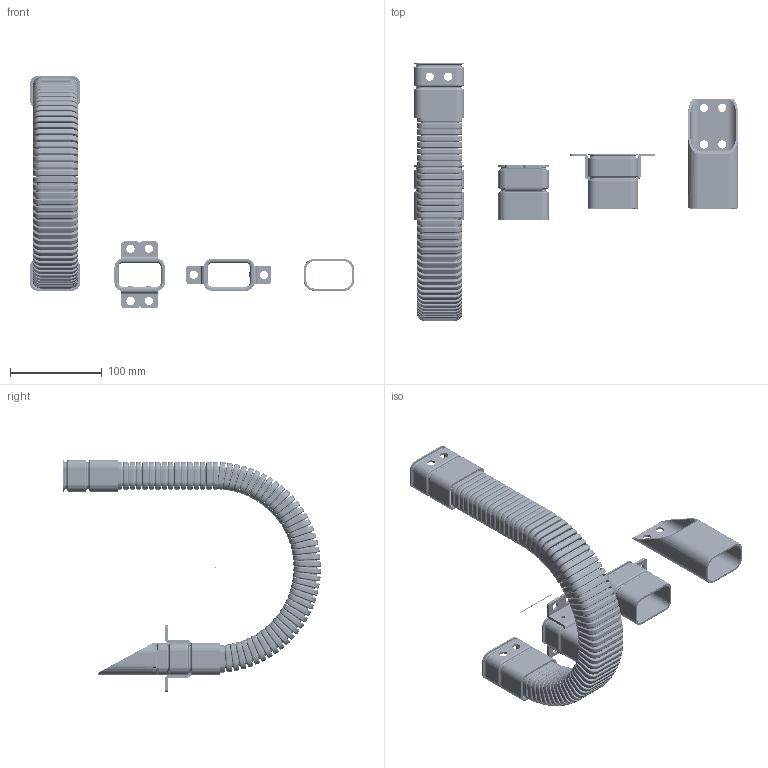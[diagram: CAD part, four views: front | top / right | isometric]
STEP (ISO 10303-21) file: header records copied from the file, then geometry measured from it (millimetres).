
FILE_DESCRIPTION((''),'2;1');
FILE_NAME('C:\Uebbing\PARAMETERKETTEN\SFK\SFK 12 N\SFK 12 N\SFK 12 N.stp','2012-04-12T08:33:42',('Uebbing'),(''),'Autodesk Inventor 10','Autodesk Inventor 10','');
FILE_SCHEMA(('AUTOMOTIVE_DESIGN { 1 0 10303 214 1 1 1 1 }'));
Length unit declared in the file: millimetre
Products named in the file (10): SFK 12 N STEP; Achse; SFK 12 N Anschluss B; Imbusschraube M6x5 Senkkopf; Anschlusswinkel; SFK 12 N Schrägflansch; SFK 12 N Rippe; SFK 12 N Anschluss N; SFK 12 N Anschluss A
Assembly tree (80 placements, depth 3):
  SFK 12 N STEP
    Achse
    SFK 12 N Anschluss B
      SFK 12 N Anschluss B
      Imbusschraube M6x5 Senkkopf  x2
      Anschlusswinkel  x2
    SFK 12 N Schrägflansch
    SFK 12 N Rippe  x60
    SFK 12 N Anschluss N  x2
    SFK 12 N Anschluss A
      SFK 12 N Anschluss N
      Imbusschraube M6x5 Senkkopf  x4
      Anschlusswinkel  x4
Bounding box: 354.55 x 281.94 x 254.01 mm (x, y, z)
Volume: 232625.3 mm3; surface area: 402419.7 mm2
Topology: 78 solids, 78 shells, 7822 faces, 17322 edges, 9789 vertices
Faces by surface type: cylinder 3733, plane 1971, bspline 1056, torus 1046, cone 12, sphere 4
Full cylindrical faces by diameter (mm): 1 x1, 6 x6, 6.5 x6, 9 x24, 12 x6
Entity records: 17767 total; most frequent: CARTESIAN_POINT 5548, DIRECTION 2790, ORIENTED_EDGE 2248, AXIS2_PLACEMENT_3D 1131, EDGE_CURVE 1124, VERTEX_POINT 652, CIRCLE 580, EDGE_LOOP 570
